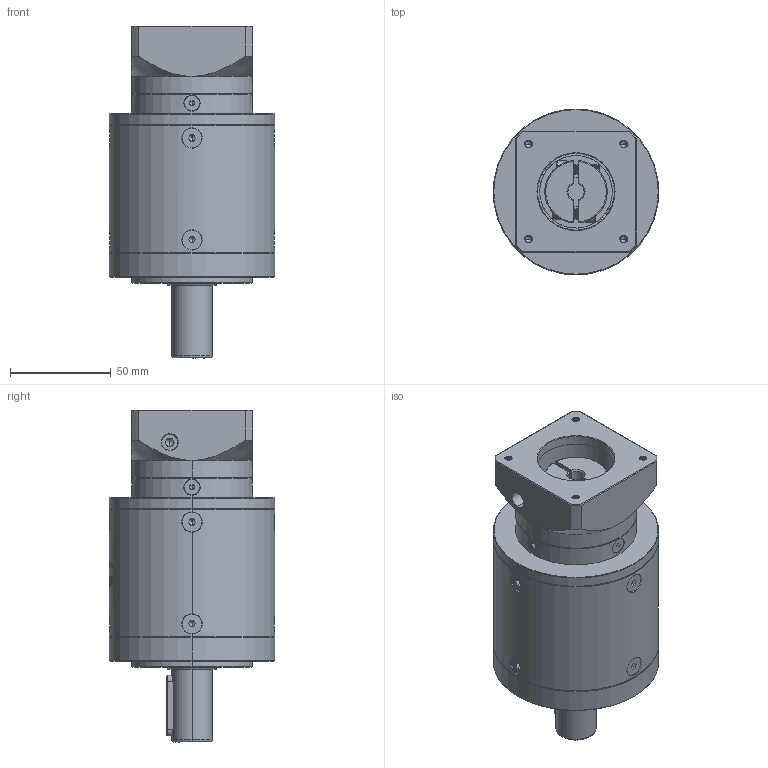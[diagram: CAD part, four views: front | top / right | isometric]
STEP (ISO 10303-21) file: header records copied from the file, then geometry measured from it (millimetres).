
FILE_DESCRIPTION (( 'STEP AP214' ), '1' );
FILE_NAME ('ZE80-D20-L3-8-38.1-47.14X47.14-M4.step', '2022-05-08T06:02:26', ( '' ), ( 'Microsoft' ), 'SwSTEP 2.0', 'SolidWorks 2016', '' );
FILE_SCHEMA (( 'AUTOMOTIVE_DESIGN' ));
Length unit declared in the file: millimetre
Products named in the file (1): ZE80-D20-L3-8-38.1-47.14X47.14-M4
Bounding box: 82 x 82 x 164.5 mm (x, y, z)
Volume: 551679.4 mm3; surface area: 69100.4 mm2
Topology: 18 solids, 18 shells, 2088 faces, 5495 edges, 3498 vertices
Faces by surface type: plane 943, cylinder 485, bspline 340, cone 306, torus 14
Entity records: 116089 total; most frequent: CARTESIAN_POINT 45679, ORIENTED_EDGE 10898, DIRECTION 8482, EDGE_CURVE 5449, VERTEX_POINT 3498, VECTOR 2900, LINE 2900, AXIS2_PLACEMENT_3D 2791
